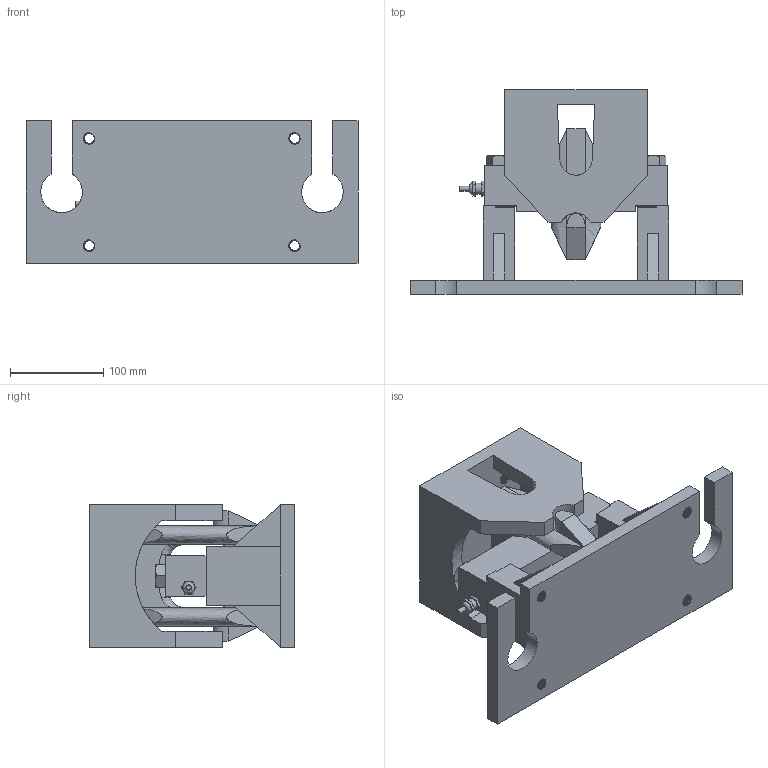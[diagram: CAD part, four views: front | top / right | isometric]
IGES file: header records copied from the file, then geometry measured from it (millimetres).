
Global section: file name: 102BHM1-(10-25)klb v11; native system: unknown; preprocessor: unknown; author: unknown; organization: unknown; date: 20200402.113508; units: millimetre
Bounding box: 355.6 x 219 x 152.4 mm (x, y, z)
Volume: 2836701.7 mm3; surface area: 418284.4 mm2
Topology: 7 solids, 7 shells, 335 faces, 865 edges, 559 vertices
Faces by surface type: bspline 335
